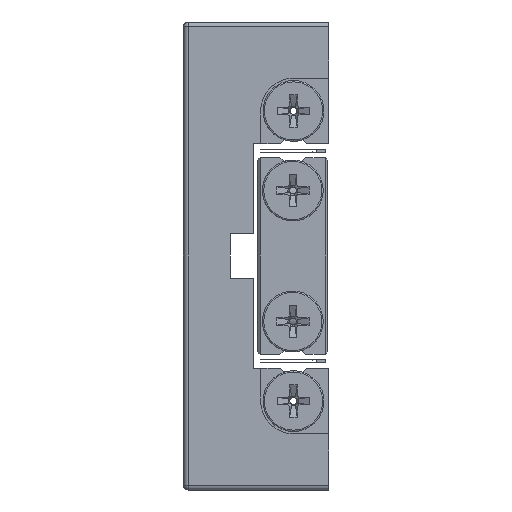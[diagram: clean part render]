
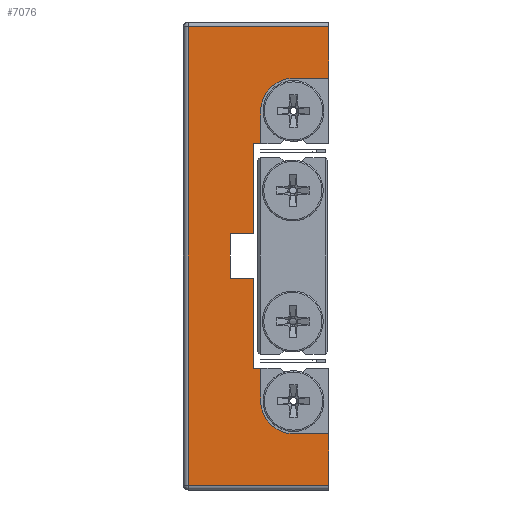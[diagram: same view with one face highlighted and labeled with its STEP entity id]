
A CAD part, left-side view. The second image highlights one B-rep face of the part: STEP entity #7076.
In plain terms, the highlighted planar face has unit normal (-1, 0, 0).
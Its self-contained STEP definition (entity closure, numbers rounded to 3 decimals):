
#48 = CARTESIAN_POINT ( 'NONE',  ( -75.98, 33.01, 49. ) ) ;
#107 = VERTEX_POINT ( 'NONE', #22766 ) ;
#301 = VECTOR ( 'NONE', #7410, 1000. ) ;
#432 = ORIENTED_EDGE ( 'NONE', *, *, #13712, .F. ) ;
#547 = ORIENTED_EDGE ( 'NONE', *, *, #13726, .F. ) ;
#598 = ORIENTED_EDGE ( 'NONE', *, *, #17594, .F. ) ;
#603 = LINE ( 'NONE', #610, #15265 ) ;
#610 = CARTESIAN_POINT ( 'NONE',  ( -75.98, 9.51, -38. ) ) ;
#666 = VERTEX_POINT ( 'NONE', #20959 ) ;
#678 = CARTESIAN_POINT ( 'NONE',  ( -75.98, 2.01, -24. ) ) ;
#1187 = DIRECTION ( 'NONE',  ( 0., 0., -1. ) ) ;
#1297 = AXIS2_PLACEMENT_3D ( 'NONE', #18085, #7416, #20225 ) ;
#1314 = VERTEX_POINT ( 'NONE', #4367 ) ;
#1484 = VERTEX_POINT ( 'NONE', #3928 ) ;
#1543 = VERTEX_POINT ( 'NONE', #5460 ) ;
#1811 = DIRECTION ( 'NONE',  ( 0., 0., -1. ) ) ;
#1917 = CARTESIAN_POINT ( 'NONE',  ( -75.98, 33.01, -49. ) ) ;
#1919 = ORIENTED_EDGE ( 'NONE', *, *, #8309, .T. ) ;
#2088 = ORIENTED_EDGE ( 'NONE', *, *, #17800, .F. ) ;
#2274 = CARTESIAN_POINT ( 'NONE',  ( -75.98, 18.01, 24. ) ) ;
#2405 = CARTESIAN_POINT ( 'NONE',  ( -75.98, 32.01, 49. ) ) ;
#2417 = VERTEX_POINT ( 'NONE', #23071 ) ;
#2440 = CARTESIAN_POINT ( 'NONE',  ( -75.98, 9.51, 38. ) ) ;
#2484 = CARTESIAN_POINT ( 'NONE',  ( -75.98, 18.01, 4.75 ) ) ;
#2705 = ORIENTED_EDGE ( 'NONE', *, *, #18776, .F. ) ;
#2809 = EDGE_CURVE ( 'NONE', #23585, #23660, #14456, .T. ) ;
#2827 = CARTESIAN_POINT ( 'NONE',  ( -75.98, 2.01, -50. ) ) ;
#2941 = EDGE_CURVE ( 'NONE', #11645, #2417, #22669, .T. ) ;
#2943 = CARTESIAN_POINT ( 'NONE',  ( -75.98, 16.51, -31. ) ) ;
#3131 = VERTEX_POINT ( 'NONE', #2440 ) ;
#3286 = LINE ( 'NONE', #2943, #12524 ) ;
#3404 = LINE ( 'NONE', #6277, #7677 ) ;
#3462 = CARTESIAN_POINT ( 'NONE',  ( -75.98, 23.01, 4.75 ) ) ;
#3750 = VECTOR ( 'NONE', #11703, 1000. ) ;
#3794 = ORIENTED_EDGE ( 'NONE', *, *, #20307, .T. ) ;
#3928 = CARTESIAN_POINT ( 'NONE',  ( -75.98, 2.01, 49. ) ) ;
#4174 = CARTESIAN_POINT ( 'NONE',  ( -75.98, 18.01, -24. ) ) ;
#4278 = VECTOR ( 'NONE', #22416, 1000. ) ;
#4367 = CARTESIAN_POINT ( 'NONE',  ( -75.98, 2.01, -38. ) ) ;
#4684 = DIRECTION ( 'NONE',  ( 0., 0., 1. ) ) ;
#4691 = DIRECTION ( 'NONE',  ( 0., -1., 0. ) ) ;
#4820 = LINE ( 'NONE', #8273, #9115 ) ;
#4929 = FACE_OUTER_BOUND ( 'NONE', #16949, .T. ) ;
#5106 = EDGE_CURVE ( 'NONE', #1484, #5484, #12125, .T. ) ;
#5129 = LINE ( 'NONE', #1917, #301 ) ;
#5298 = CARTESIAN_POINT ( 'NONE',  ( -75.98, 33.01, -50. ) ) ;
#5460 = CARTESIAN_POINT ( 'NONE',  ( -75.98, 18.01, -4.75 ) ) ;
#5484 = VERTEX_POINT ( 'NONE', #2405 ) ;
#6042 = CARTESIAN_POINT ( 'NONE',  ( -75.98, 23.01, -4.75 ) ) ;
#6155 = ORIENTED_EDGE ( 'NONE', *, *, #6374, .F. ) ;
#6277 = CARTESIAN_POINT ( 'NONE',  ( -75.98, 18.01, 24. ) ) ;
#6304 = CARTESIAN_POINT ( 'NONE',  ( -75.98, 9.51, -38. ) ) ;
#6374 = EDGE_CURVE ( 'NONE', #19540, #19808, #12186, .T. ) ;
#7076 = ADVANCED_FACE ( 'NONE', ( #4929 ), #16339, .F. ) ;
#7135 = DIRECTION ( 'NONE',  ( 1., 0., 0. ) ) ;
#7410 = DIRECTION ( 'NONE',  ( 0., -1., 0. ) ) ;
#7416 = DIRECTION ( 'NONE',  ( -1., 0., 0. ) ) ;
#7514 = VECTOR ( 'NONE', #12688, 1000. ) ;
#7677 = VECTOR ( 'NONE', #19074, 1000. ) ;
#8217 = CARTESIAN_POINT ( 'NONE',  ( -75.98, 18.01, -24. ) ) ;
#8261 = ORIENTED_EDGE ( 'NONE', *, *, #19013, .F. ) ;
#8273 = CARTESIAN_POINT ( 'NONE',  ( -75.98, 18.01, -4.75 ) ) ;
#8309 = EDGE_CURVE ( 'NONE', #666, #1484, #8609, .T. ) ;
#8339 = ORIENTED_EDGE ( 'NONE', *, *, #2941, .F. ) ;
#8609 = LINE ( 'NONE', #11660, #23270 ) ;
#8800 = EDGE_CURVE ( 'NONE', #19808, #1314, #603, .T. ) ;
#8859 = CARTESIAN_POINT ( 'NONE',  ( -75.98, 9.51, -31. ) ) ;
#9040 = AXIS2_PLACEMENT_3D ( 'NONE', #8859, #9974, #21339 ) ;
#9115 = VECTOR ( 'NONE', #4691, 1000. ) ;
#9121 = LINE ( 'NONE', #4174, #4278 ) ;
#9178 = LINE ( 'NONE', #678, #3750 ) ;
#9675 = DIRECTION ( 'NONE',  ( 0., 0., 1. ) ) ;
#9779 = VECTOR ( 'NONE', #15382, 1000. ) ;
#9934 = LINE ( 'NONE', #2827, #17927 ) ;
#9974 = DIRECTION ( 'NONE',  ( -1., 0., 0. ) ) ;
#10022 = CARTESIAN_POINT ( 'NONE',  ( -75.98, 23.01, 4.75 ) ) ;
#10251 = ORIENTED_EDGE ( 'NONE', *, *, #15360, .T. ) ;
#10816 = ORIENTED_EDGE ( 'NONE', *, *, #8800, .F. ) ;
#10855 = DIRECTION ( 'NONE',  ( 0., 1., 0. ) ) ;
#10901 = EDGE_CURVE ( 'NONE', #2417, #11274, #3404, .T. ) ;
#11274 = VERTEX_POINT ( 'NONE', #2274 ) ;
#11330 = LINE ( 'NONE', #23643, #7514 ) ;
#11489 = CARTESIAN_POINT ( 'NONE',  ( -75.98, 32.01, -49. ) ) ;
#11638 = DIRECTION ( 'NONE',  ( 0., -1., 0. ) ) ;
#11645 = VERTEX_POINT ( 'NONE', #22130 ) ;
#11660 = CARTESIAN_POINT ( 'NONE',  ( -75.98, 2.01, -50. ) ) ;
#11703 = DIRECTION ( 'NONE',  ( 0., -1., 0. ) ) ;
#11961 = CARTESIAN_POINT ( 'NONE',  ( -75.98, 16.51, 31. ) ) ;
#12125 = LINE ( 'NONE', #48, #21418 ) ;
#12186 = CIRCLE ( 'NONE', #9040, 7. ) ;
#12280 = CARTESIAN_POINT ( 'NONE',  ( -75.98, 9.51, 38. ) ) ;
#12293 = VECTOR ( 'NONE', #18838, 1000. ) ;
#12478 = ORIENTED_EDGE ( 'NONE', *, *, #5106, .T. ) ;
#12524 = VECTOR ( 'NONE', #1187, 1000. ) ;
#12688 = DIRECTION ( 'NONE',  ( 0., 0., -1. ) ) ;
#13586 = LINE ( 'NONE', #2484, #9779 ) ;
#13712 = EDGE_CURVE ( 'NONE', #11274, #23585, #13586, .T. ) ;
#13726 = EDGE_CURVE ( 'NONE', #15624, #19558, #9178, .T. ) ;
#14122 = CARTESIAN_POINT ( 'NONE',  ( -75.98, 18.01, 4.75 ) ) ;
#14143 = DIRECTION ( 'NONE',  ( 0., 1., 0. ) ) ;
#14301 = LINE ( 'NONE', #12280, #22841 ) ;
#14456 = LINE ( 'NONE', #10022, #15866 ) ;
#14654 = ORIENTED_EDGE ( 'NONE', *, *, #16326, .F. ) ;
#14766 = ORIENTED_EDGE ( 'NONE', *, *, #10901, .F. ) ;
#15070 = VERTEX_POINT ( 'NONE', #18957 ) ;
#15265 = VECTOR ( 'NONE', #11638, 1000. ) ;
#15360 = EDGE_CURVE ( 'NONE', #20524, #107, #5129, .T. ) ;
#15382 = DIRECTION ( 'NONE',  ( 0., 0., -1. ) ) ;
#15624 = VERTEX_POINT ( 'NONE', #8217 ) ;
#15866 = VECTOR ( 'NONE', #23799, 1000. ) ;
#16326 = EDGE_CURVE ( 'NONE', #15070, #1543, #4820, .T. ) ;
#16339 = PLANE ( 'NONE',  #18386 ) ;
#16519 = CIRCLE ( 'NONE', #1297, 7. ) ;
#16949 = EDGE_LOOP ( 'NONE', ( #1919, #12478, #3794, #10251, #21297, #10816, #6155, #8261, #547, #23229, #14654, #598, #23658, #432, #14766, #8339, #2705, #2088 ) ) ;
#17594 = EDGE_CURVE ( 'NONE', #23660, #15070, #21369, .T. ) ;
#17800 = EDGE_CURVE ( 'NONE', #666, #3131, #14301, .T. ) ;
#17927 = VECTOR ( 'NONE', #4684, 1000. ) ;
#18042 = CARTESIAN_POINT ( 'NONE',  ( -75.98, 16.51, -24. ) ) ;
#18085 = CARTESIAN_POINT ( 'NONE',  ( -75.98, 9.51, 31. ) ) ;
#18289 = EDGE_CURVE ( 'NONE', #107, #1314, #9934, .T. ) ;
#18386 = AXIS2_PLACEMENT_3D ( 'NONE', #5298, #7135, #19946 ) ;
#18776 = EDGE_CURVE ( 'NONE', #3131, #11645, #16519, .T. ) ;
#18838 = DIRECTION ( 'NONE',  ( 0., 0., -1. ) ) ;
#18957 = CARTESIAN_POINT ( 'NONE',  ( -75.98, 23.01, -4.75 ) ) ;
#19013 = EDGE_CURVE ( 'NONE', #19558, #19540, #3286, .T. ) ;
#19074 = DIRECTION ( 'NONE',  ( 0., 1., 0. ) ) ;
#19540 = VERTEX_POINT ( 'NONE', #19695 ) ;
#19558 = VERTEX_POINT ( 'NONE', #18042 ) ;
#19695 = CARTESIAN_POINT ( 'NONE',  ( -75.98, 16.51, -31. ) ) ;
#19808 = VERTEX_POINT ( 'NONE', #6304 ) ;
#19946 = DIRECTION ( 'NONE',  ( 0., 0., -1. ) ) ;
#20225 = DIRECTION ( 'NONE',  ( 0., 0., -1. ) ) ;
#20307 = EDGE_CURVE ( 'NONE', #5484, #20524, #11330, .T. ) ;
#20524 = VERTEX_POINT ( 'NONE', #11489 ) ;
#20657 = VECTOR ( 'NONE', #1811, 1000. ) ;
#20959 = CARTESIAN_POINT ( 'NONE',  ( -75.98, 2.01, 38. ) ) ;
#21297 = ORIENTED_EDGE ( 'NONE', *, *, #18289, .T. ) ;
#21339 = DIRECTION ( 'NONE',  ( 0., 0., 1. ) ) ;
#21369 = LINE ( 'NONE', #6042, #12293 ) ;
#21418 = VECTOR ( 'NONE', #10855, 1000. ) ;
#22130 = CARTESIAN_POINT ( 'NONE',  ( -75.98, 16.51, 31. ) ) ;
#22416 = DIRECTION ( 'NONE',  ( 0., 0., -1. ) ) ;
#22669 = LINE ( 'NONE', #11961, #20657 ) ;
#22716 = EDGE_CURVE ( 'NONE', #1543, #15624, #9121, .T. ) ;
#22766 = CARTESIAN_POINT ( 'NONE',  ( -75.98, 2.01, -49. ) ) ;
#22841 = VECTOR ( 'NONE', #14143, 1000. ) ;
#23071 = CARTESIAN_POINT ( 'NONE',  ( -75.98, 16.51, 24. ) ) ;
#23229 = ORIENTED_EDGE ( 'NONE', *, *, #22716, .F. ) ;
#23270 = VECTOR ( 'NONE', #9675, 1000. ) ;
#23585 = VERTEX_POINT ( 'NONE', #14122 ) ;
#23643 = CARTESIAN_POINT ( 'NONE',  ( -75.98, 32.01, -50. ) ) ;
#23658 = ORIENTED_EDGE ( 'NONE', *, *, #2809, .F. ) ;
#23660 = VERTEX_POINT ( 'NONE', #3462 ) ;
#23799 = DIRECTION ( 'NONE',  ( 0., 1., 0. ) ) ;
